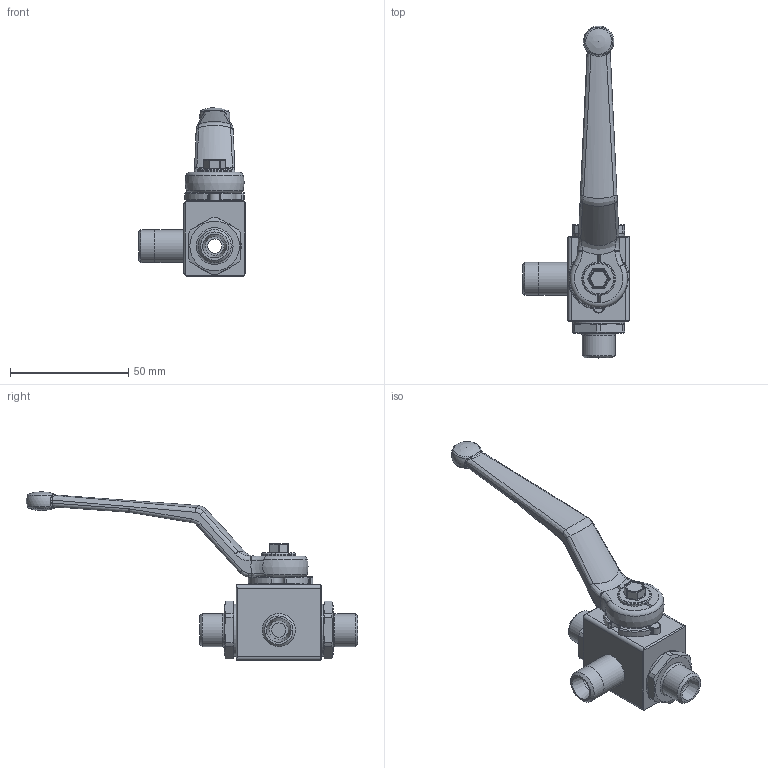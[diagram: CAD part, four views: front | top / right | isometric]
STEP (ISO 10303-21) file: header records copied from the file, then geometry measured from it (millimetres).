
FILE_DESCRIPTION( ( 'Unknown' ), '1' );
FILE_NAME( 'H:/PISTER/3D-MODELLE/BK3 stp/BK3 DN6 8L.stp', 'Unknown', ( 'Unknown' ), ( 'Unknown' ), 'PSStep 14.0', 'Unknown', ' ' );
FILE_SCHEMA( ( 'AUTOMOTIVE_DESIGN { 1 0 10303 214 1 1 1 1 }' ) );
Length unit declared in the file: millimetre
Products named in the file (10): Assem1; 06-008-059-oa7; 09-09-002; 58-28740-07-oa8; Griff_SW9; 58-0933-133; 04-006-088-oa9; 04-006-088-oa10; 04-006-038-oa11; 01-008-014-oa12
Assembly tree (9 placements, depth 2):
  Assem1
    06-008-059-oa7
    09-09-002
    58-28740-07-oa8
    Griff_SW9
    58-0933-133
    04-006-088-oa9
    04-006-088-oa10
    04-006-038-oa11
    01-008-014-oa12
Bounding box: 45.2 x 140.5 x 71.4 mm (x, y, z)
Volume: 27657.1 mm3; surface area: 22416.7 mm2
Topology: 9 solids, 9 shells, 388 faces, 953 edges, 573 vertices
Faces by surface type: cylinder 131, plane 125, bspline 42, torus 40, cone 30, sphere 20
Full cylindrical faces by diameter (mm): 4.134 x1, 4.98 x1, 5 x1, 6 x3, 8 x3, 14 x7, 14.3 x1, 22 x2, 22.5 x2
Entity records: 15804 total; most frequent: CARTESIAN_POINT 3956, DIRECTION 1845, ORIENTED_EDGE 1710, EDGE_CURVE 855, AXIS2_PLACEMENT_3D 752, VERTEX_POINT 548, EDGE_LOOP 468, FACE_OUTER_BOUND 421
